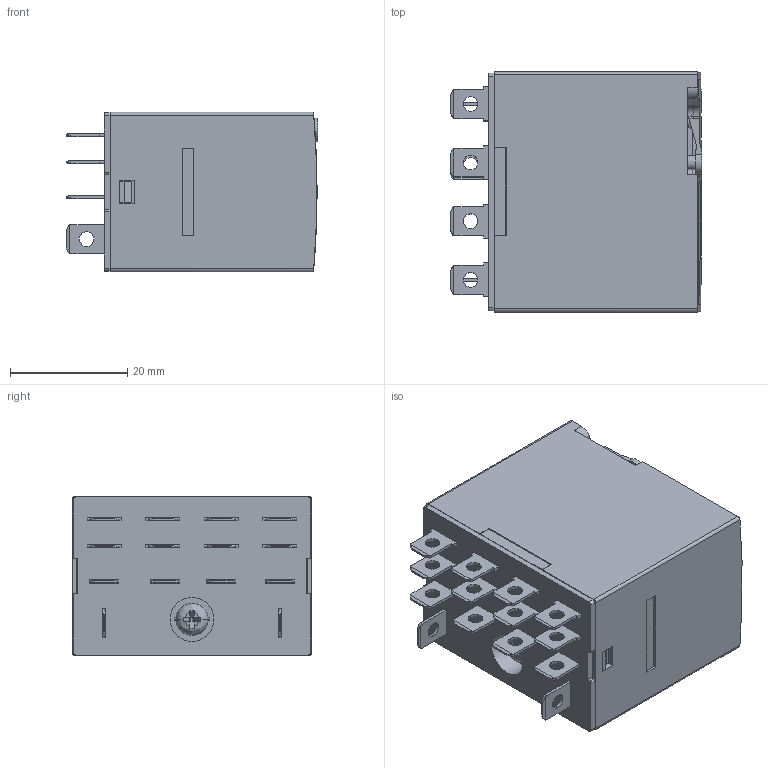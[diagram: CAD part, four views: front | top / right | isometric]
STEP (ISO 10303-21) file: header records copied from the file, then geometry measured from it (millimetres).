
FILE_DESCRIPTION (( 'STEP AP214' ), '1' );
FILE_NAME ('RN14-24AC.STEP', '2026-03-23T10:27:28', ( '' ), ( '' ), 'SwSTEP 2.0', 'SolidWorks 2025', '' );
FILE_SCHEMA (( 'AUTOMOTIVE_DESIGN' ));
Length unit declared in the file: millimetre
Products named in the file (1): RN14-24AC
Bounding box: 42.95 x 40.9 x 27.2 mm (x, y, z)
Volume: 12512.7 mm3; surface area: 21671.9 mm2
Topology: 21 solids, 21 shells, 1313 faces, 4725 edges, 3623 vertices
Faces by surface type: plane 900, cylinder 396, bspline 15, cone 2
Entity records: 72265 total; most frequent: CARTESIAN_POINT 17258, ORIENTED_EDGE 9438, DIRECTION 7090, EDGE_CURVE 4719, VERTEX_POINT 3623, LINE 2920, VECTOR 2920, AXIS2_PLACEMENT_3D 2085
